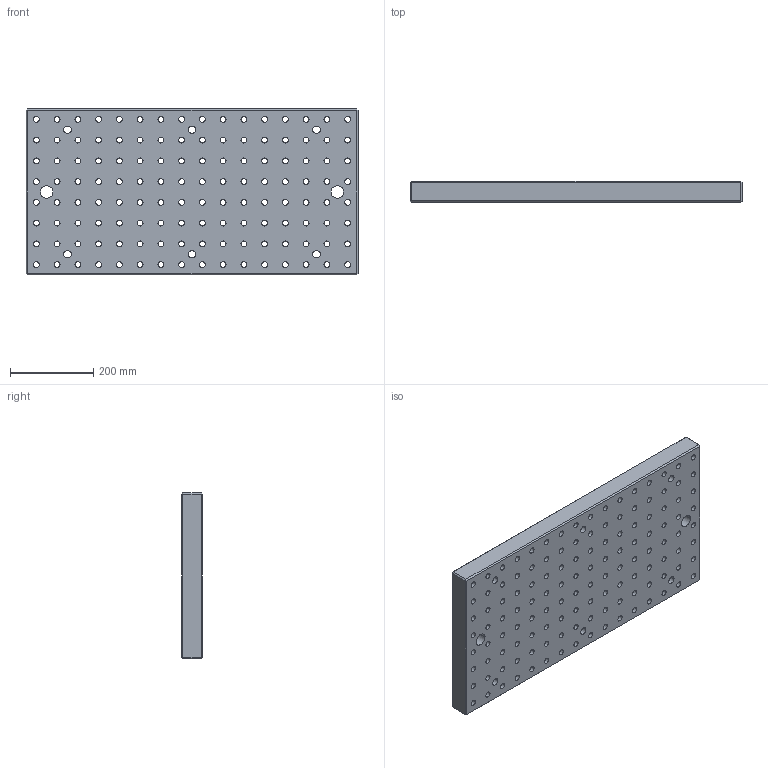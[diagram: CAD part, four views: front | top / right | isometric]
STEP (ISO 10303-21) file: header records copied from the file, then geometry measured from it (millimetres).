
FILE_DESCRIPTION((''),'2;1');
FILE_NAME('FG_WH_BASPL_RCG16NP003','2026-05-18T17:02:11',('Admin'),(''),'CREO PARAMETRIC BY PTC INC, 2025010','CREO PARAMETRIC BY PTC INC, 2025010','');
FILE_SCHEMA(('CONFIG_CONTROL_DESIGN'));
Length unit declared in the file: millimetre
Products named in the file (1): FG_WH_BASPL_RCG16NP003
Bounding box: 800 x 50 x 400 mm (x, y, z)
Volume: 14713796.8 mm3; surface area: 1252260.7 mm2
Topology: 1 solids, 129 shells, 1086 faces, 2704 edges, 1882 vertices
Faces by surface type: cylinder 796, plane 288, cone 2
Entity records: 33969 total; most frequent: DIRECTION 6728, CARTESIAN_POINT 5673, ORIENTED_EDGE 4896, AXIS2_PLACEMENT_3D 2937, EDGE_CURVE 2704, VERTEX_POINT 1882, CIRCLE 1850, EDGE_LOOP 1620
